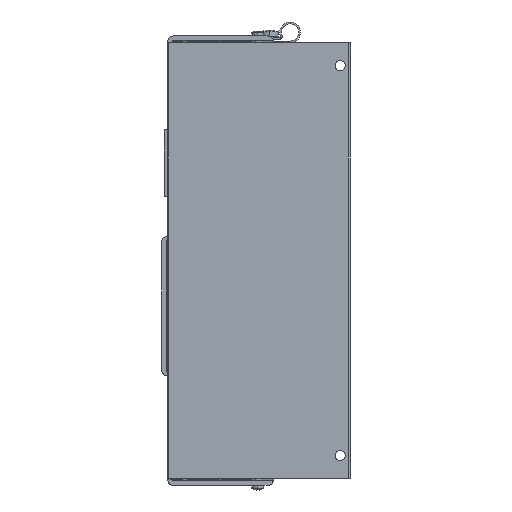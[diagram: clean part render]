
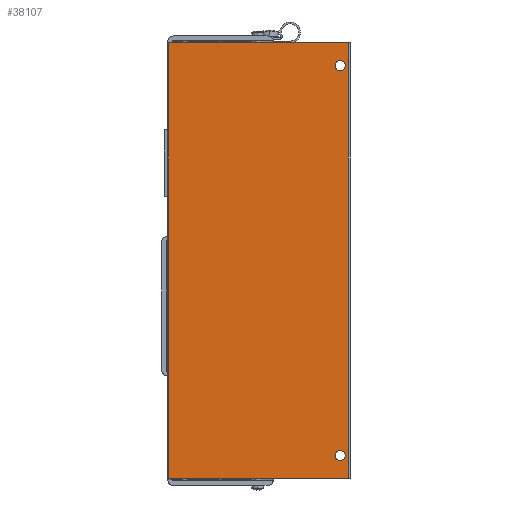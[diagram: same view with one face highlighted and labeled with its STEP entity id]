
A CAD part, left-side view. The second image highlights one B-rep face of the part: STEP entity #38107.
In plain terms, the highlighted planar face has unit normal (-1, 0, 0).
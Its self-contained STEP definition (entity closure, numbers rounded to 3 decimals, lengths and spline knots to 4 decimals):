
#2804=DIRECTION('',(0.,-1.,0.));
#2805=VECTOR('',#2804,3.232);
#2806=CARTESIAN_POINT('',(-4.71,1.3802,-7.81));
#2807=LINE('',#2806,#2805);
#13319=DIRECTION('',(0.,0.,1.));
#13320=VECTOR('',#13319,7.82);
#13321=CARTESIAN_POINT('',(-4.71,-1.8518,-7.81));
#13322=LINE('',#13321,#13320);
#13328=DIRECTION('',(0.,-1.,0.));
#13329=VECTOR('',#13328,3.232);
#13330=CARTESIAN_POINT('',(-4.71,1.3802,0.01));
#13331=LINE('',#13330,#13329);
#13332=CARTESIAN_POINT('',(-4.71,-1.7018,-0.4));
#13333=DIRECTION('',(1.,0.,0.));
#13334=DIRECTION('',(0.,1.,0.));
#13335=AXIS2_PLACEMENT_3D('',#13332,#13333,#13334);
#13337=CARTESIAN_POINT('',(-4.71,-1.7018,-0.4));
#13338=DIRECTION('',(1.,0.,0.));
#13339=DIRECTION('',(0.,-1.,0.));
#13340=AXIS2_PLACEMENT_3D('',#13337,#13338,#13339);
#13342=CARTESIAN_POINT('',(-4.71,-1.7018,-7.4));
#13343=DIRECTION('',(1.,0.,0.));
#13344=DIRECTION('',(0.,1.,0.));
#13345=AXIS2_PLACEMENT_3D('',#13342,#13343,#13344);
#13347=CARTESIAN_POINT('',(-4.71,-1.7018,-7.4));
#13348=DIRECTION('',(1.,0.,0.));
#13349=DIRECTION('',(0.,-1.,0.));
#13350=AXIS2_PLACEMENT_3D('',#13347,#13348,#13349);
#13352=DIRECTION('',(0.,0.,1.));
#13353=VECTOR('',#13352,7.82);
#13354=CARTESIAN_POINT('',(-4.71,1.3802,-7.81));
#13355=LINE('',#13354,#13353);
#16228=CARTESIAN_POINT('',(-4.71,-1.6118,-7.4));
#16229=CARTESIAN_POINT('',(-4.71,-1.7918,-7.4));
#16230=VERTEX_POINT('',#16228);
#16231=VERTEX_POINT('',#16229);
#16310=CARTESIAN_POINT('',(-4.71,-1.8518,-7.81));
#16311=VERTEX_POINT('',#16310);
#16312=CARTESIAN_POINT('',(-4.71,-1.8518,0.01));
#16313=VERTEX_POINT('',#16312);
#16322=CARTESIAN_POINT('',(-4.71,-1.6118,-0.4));
#16323=CARTESIAN_POINT('',(-4.71,-1.7918,-0.4));
#16324=VERTEX_POINT('',#16322);
#16325=VERTEX_POINT('',#16323);
#16354=CARTESIAN_POINT('',(-4.71,1.3802,-7.81));
#16355=CARTESIAN_POINT('',(-4.71,1.3802,0.01));
#16356=VERTEX_POINT('',#16354);
#16357=VERTEX_POINT('',#16355);
#38083=CARTESIAN_POINT('',(-4.71,-0.2498,0.01));
#38084=DIRECTION('',(-1.,0.,0.));
#38085=DIRECTION('',(0.,-1.,0.));
#38086=AXIS2_PLACEMENT_3D('',#38083,#38084,#38085);
#38087=PLANE('',#38086);
#38089=ORIENTED_EDGE('',*,*,#38088,.T.);
#38090=ORIENTED_EDGE('',*,*,#26041,.T.);
#38091=ORIENTED_EDGE('',*,*,#38077,.F.);
#38092=ORIENTED_EDGE('',*,*,#22912,.F.);
#38093=EDGE_LOOP('',(#38089,#38090,#38091,#38092));
#38094=FACE_OUTER_BOUND('',#38093,.F.);
#38096=ORIENTED_EDGE('',*,*,#38095,.F.);
#38098=ORIENTED_EDGE('',*,*,#38097,.F.);
#38099=EDGE_LOOP('',(#38096,#38098));
#38100=FACE_BOUND('',#38099,.F.);
#38102=ORIENTED_EDGE('',*,*,#38101,.F.);
#38104=ORIENTED_EDGE('',*,*,#38103,.F.);
#38105=EDGE_LOOP('',(#38102,#38104));
#38106=FACE_BOUND('',#38105,.F.);
#38107=ADVANCED_FACE('',(#38094,#38100,#38106),#38087,.T.);
#13336=CIRCLE('',#13335,0.09);
#13341=CIRCLE('',#13340,0.09);
#13346=CIRCLE('',#13345,0.09);
#13351=CIRCLE('',#13350,0.09);
#22912=EDGE_CURVE('',#16356,#16311,#2807,.T.);
#26041=EDGE_CURVE('',#16357,#16313,#13331,.T.);
#38077=EDGE_CURVE('',#16311,#16313,#13322,.T.);
#38088=EDGE_CURVE('',#16356,#16357,#13355,.T.);
#38095=EDGE_CURVE('',#16324,#16325,#13336,.T.);
#38097=EDGE_CURVE('',#16325,#16324,#13341,.T.);
#38101=EDGE_CURVE('',#16230,#16231,#13346,.T.);
#38103=EDGE_CURVE('',#16231,#16230,#13351,.T.);
